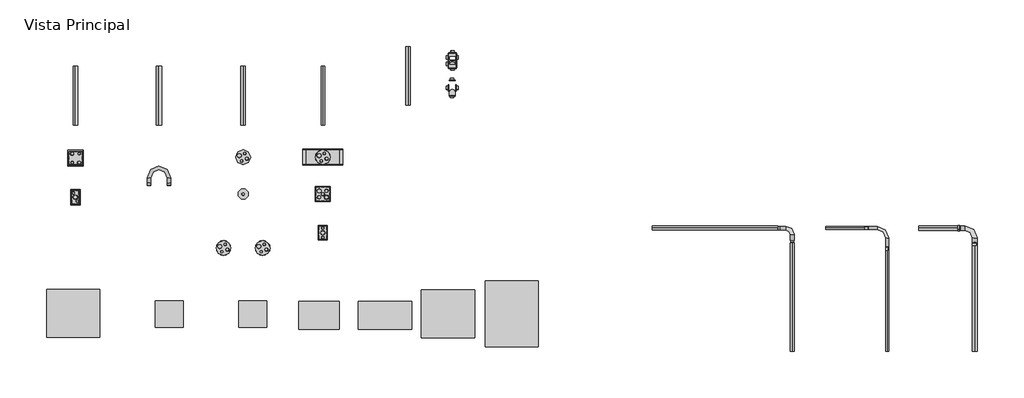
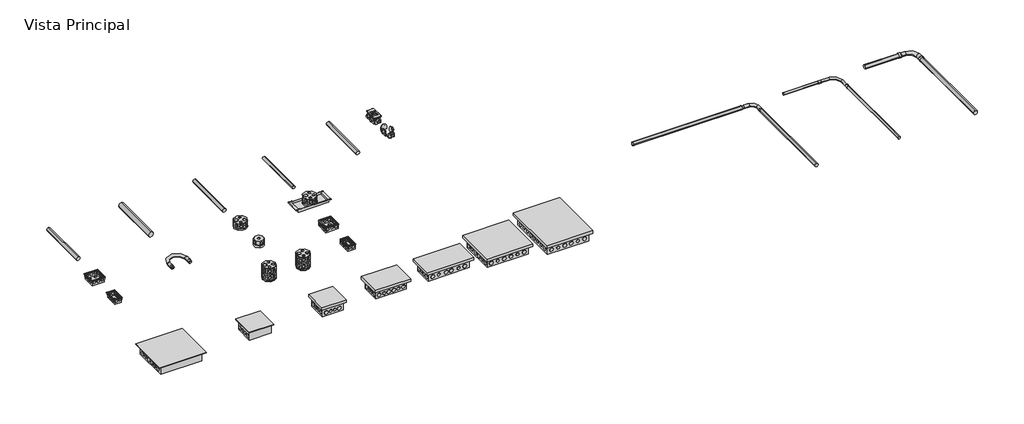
# One storey, incomplete: 31 pipe fittings, 11 cable carrier segments, 3 cable carrier fittings.
"""IFC4 building model written with IfcOpenShell, lengths in millimetres."""

from ifc_helpers import new_model, si_unit, point, frame, frame_2d, origin, place, context, project, spatial, circle_curve, trimmed, segment, composite_curve, outline, extrude, transform, mapped, element, save
from components import var_79ad25eb, var_770de3e1, var_78230c35, leve_d32ba077, pipe_fitting_fdc74c3c, leve_6d39340a, leve_111e3c81, leve_2e341f38, var_cd2047e7, var_c4bef79c, var_c04d02d2, var_3d4e0ce0, var_f98750ab, var_34743248, var_ca1eaef3, var_74e7e824, var_4c39e476, var_dc263d33, var_e7d891e8, var_2f03b29f, var_b8f45ad4, var_01f370bb, var_af95b0c3

model = new_model("IFC4")

# Units and contexts
model_context = context("Model", 3, world=origin())
ifc_project = project(units=[si_unit("LENGTHUNIT", "METRE", prefix="MILLI")], contexts=[model_context])

# Site, building, storey
site = spatial("IfcSite", under=ifc_project)
building = spatial("IfcBuilding", under=site)
storey = spatial("IfcBuildingStorey", under=building, Name="Vista Principal", Elevation=0.0)

# Cable carrier fittings
placement = place(None, origin())
var_shape = var_79ad25eb(model_context)
element("IfcCableCarrierFitting", 1, ObjectType="AmancoWavin_ConexõesdoConduite_LinhaEletricaElectroAmancoCurva : Var.", at=placement, inside=storey, context=model_context, shape_type="MappedRepresentation", body=[
    mapped(var_shape, transform((5169.1631432, -470.608474, 0.0), x_axis=(1.0, 0.0, 0.0), y_axis=(0.0, 1.0, 0.0), z_axis=(0.0, 0.0, 1.0))),
])
var_2_shape = var_770de3e1(model_context)
element("IfcCableCarrierFitting", 2, ObjectType="AmancoWavin_ConexõesdoConduite_LinhaEletricaSoldavelCurva : Var.", at=placement, inside=storey, context=model_context, shape_type="MappedRepresentation", body=[
    mapped(var_2_shape, transform((4543.2494984, -470.608474, 0.0), x_axis=(1.0, 0.0, 0.0), y_axis=(0.0, 1.0, 0.0), z_axis=(0.0, 0.0, 1.0))),
])
var_3_shape = var_78230c35(model_context)
element("IfcCableCarrierFitting", 3, ObjectType="AmancoWavin_ConexõesdoConduite_LinhaEletricaRoscavelCurva : Var.", at=placement, inside=storey, context=model_context, shape_type="MappedRepresentation", body=[
    mapped(var_3_shape, transform((3864.4978624, -470.608474, 0.0), x_axis=(1.0, 0.0, 0.0), y_axis=(0.0, 1.0, 0.0), z_axis=(0.0, 0.0, 1.0))),
])

# Cable carrier segments
element("IfcCableCarrierSegment", 4, ObjectType="Eletroduto Corrugado Serie Leve", at=placement, inside=storey, context=model_context, shape_type="SweptSolid", body=[
    extrude(outline(composite_curve([segment(trimmed(circle_curve(frame_2d((0.0, -60.3170525)), 16.0), [point((0.0, -76.3170525))], [point((-16.0, -60.3170525))], False, "CARTESIAN"), True, "CONTINUOUS"), segment(trimmed(circle_curve(frame_2d((0.0, -60.3170525)), 16.0), [point((-16.0, -60.3170525))], [point((0.0, -44.3170525))], False, "CARTESIAN"), True, "CONTINUOUS"), segment(trimmed(circle_curve(frame_2d((0.0, -60.3170525)), 16.0), [point((0.0, -44.3170525))], [point((16.0, -60.3170525))], False, "CARTESIAN"), True, "CONTINUOUS"), segment(trimmed(circle_curve(frame_2d((0.0, -60.3170525)), 16.0), [point((16.0, -60.3170525))], [point((0.0, -76.3170525))], False, "CARTESIAN"), True, "CONTINUOUS")], self_intersect=False)), frame((0.0, 266.4085904, 0.0), z_axis=(0.0, 1.0, 0.0), x_axis=(0.0, 0.0, 1.0)), (0.0, 0.0, 1.0), 420.0),
])
element("IfcCableCarrierSegment", 5, ObjectType="Eletroduto Corrugado Serie Reforçada", at=placement, inside=storey, context=model_context, shape_type="SweptSolid", body=[
    extrude(outline(composite_curve([segment(trimmed(circle_curve(frame_2d((0.0, 509.4743854)), 12.5), [point((0.0, 496.9743854))], [point((-12.5, 509.4743854))], False, "CARTESIAN"), True, "CONTINUOUS"), segment(trimmed(circle_curve(frame_2d((0.0, 509.4743854)), 12.5), [point((-12.5, 509.4743854))], [point((0.0, 521.9743854))], False, "CARTESIAN"), True, "CONTINUOUS"), segment(trimmed(circle_curve(frame_2d((0.0, 509.4743854)), 12.5), [point((0.0, 521.9743854))], [point((12.5, 509.4743854))], False, "CARTESIAN"), True, "CONTINUOUS"), segment(trimmed(circle_curve(frame_2d((0.0, 509.4743854)), 12.5), [point((12.5, 509.4743854))], [point((0.0, 496.9743854))], False, "CARTESIAN"), True, "CONTINUOUS")], self_intersect=False)), frame((0.0, 266.4085904, 0.0), z_axis=(0.0, 1.0, 0.0), x_axis=(0.0, 0.0, 1.0)), (0.0, 0.0, 1.0), 420.0),
])
element("IfcCableCarrierSegment", 6, ObjectType="Eletroduto Roscavel", at=placement, inside=storey, context=model_context, shape_type="SweptSolid", body=[
    extrude(outline(composite_curve([segment(trimmed(circle_curve(frame_2d((0.0, -661.5797353)), 21.1), [point((0.0, -682.6797353))], [point((-21.1, -661.5797353))], False, "CARTESIAN"), True, "CONTINUOUS"), segment(trimmed(circle_curve(frame_2d((0.0, -661.5797353)), 21.1), [point((-21.1, -661.5797353))], [point((0.0, -640.4797353))], False, "CARTESIAN"), True, "CONTINUOUS"), segment(trimmed(circle_curve(frame_2d((0.0, -661.5797353)), 21.1), [point((0.0, -640.4797353))], [point((21.1, -661.5797353))], False, "CARTESIAN"), True, "CONTINUOUS"), segment(trimmed(circle_curve(frame_2d((0.0, -661.5797353)), 21.1), [point((21.1, -661.5797353))], [point((0.0, -682.6797353))], False, "CARTESIAN"), True, "CONTINUOUS")], self_intersect=False)), frame((0.0, 266.4085904, 0.0), z_axis=(0.0, 1.0, 0.0), x_axis=(0.0, 0.0, 1.0)), (0.0, 0.0, 1.0), 420.0),
])
element("IfcCableCarrierSegment", 7, ObjectType="Eletroduto Soldável", at=placement, inside=storey, context=model_context, shape_type="SweptSolid", body=[
    extrude(outline(composite_curve([segment(trimmed(circle_curve(frame_2d((0.0, -1258.8075581)), 16.0), [point((0.0, -1274.8075581))], [point((-16.0, -1258.8075581))], False, "CARTESIAN"), True, "CONTINUOUS"), segment(trimmed(circle_curve(frame_2d((0.0, -1258.8075581)), 16.0), [point((-16.0, -1258.8075581))], [point((0.0, -1242.8075581))], False, "CARTESIAN"), True, "CONTINUOUS"), segment(trimmed(circle_curve(frame_2d((0.0, -1258.8075581)), 16.0), [point((0.0, -1242.8075581))], [point((16.0, -1258.8075581))], False, "CARTESIAN"), True, "CONTINUOUS"), segment(trimmed(circle_curve(frame_2d((0.0, -1258.8075581)), 16.0), [point((16.0, -1258.8075581))], [point((0.0, -1274.8075581))], False, "CARTESIAN"), True, "CONTINUOUS")], self_intersect=False)), frame((0.0, 266.4085904, 0.0), z_axis=(0.0, 1.0, 0.0), x_axis=(0.0, 0.0, 1.0)), (0.0, 0.0, 1.0), 420.0),
])
element("IfcCableCarrierSegment", 8, ObjectType="Eletroduto ElectroAmanco", at=placement, inside=storey, context=model_context, shape_type="SweptSolid", body=[
    extrude(outline(composite_curve([segment(trimmed(circle_curve(frame_2d((0.0, 1118.3829149)), 16.45), [point((0.0, 1101.9329149))], [point((-16.45, 1118.3829149))], False, "CARTESIAN"), True, "CONTINUOUS"), segment(trimmed(circle_curve(frame_2d((0.0, 1118.3829149)), 16.45), [point((-16.45, 1118.3829149))], [point((0.0, 1134.8329149))], False, "CARTESIAN"), True, "CONTINUOUS"), segment(trimmed(circle_curve(frame_2d((0.0, 1118.3829149)), 16.45), [point((0.0, 1134.8329149))], [point((16.45, 1118.3829149))], False, "CARTESIAN"), True, "CONTINUOUS"), segment(trimmed(circle_curve(frame_2d((0.0, 1118.3829149)), 16.45), [point((16.45, 1118.3829149))], [point((0.0, 1101.9329149))], False, "CARTESIAN"), True, "CONTINUOUS")], self_intersect=False)), frame((0.0, 408.9635969, 0.0), z_axis=(0.0, 1.0, 0.0), x_axis=(0.0, 0.0, 1.0)), (0.0, 0.0, 1.0), 420.0),
])
element("IfcCableCarrierSegment", 9, ObjectType="Eletroduto Roscavel", at=placement, inside=storey, context=model_context, shape_type="SweptSolid", body=[
    extrude(outline(composite_curve([segment(trimmed(circle_curve(frame_2d((-470.608474, 0.0)), 13.8), [point((-484.408474, 0.0))], [point((-470.608474, 13.8))], False, "CARTESIAN"), True, "CONTINUOUS"), segment(trimmed(circle_curve(frame_2d((-470.608474, 0.0)), 13.8), [point((-470.608474, 13.8))], [point((-456.808474, 0.0))], False, "CARTESIAN"), True, "CONTINUOUS"), segment(trimmed(circle_curve(frame_2d((-470.608474, 0.0)), 13.8), [point((-456.808474, 0.0))], [point((-470.608474, -13.8))], False, "CARTESIAN"), True, "CONTINUOUS"), segment(trimmed(circle_curve(frame_2d((-470.608474, 0.0)), 13.8), [point((-470.608474, -13.8))], [point((-484.408474, 0.0))], False, "CARTESIAN"), True, "CONTINUOUS")], self_intersect=False)), frame((2864.4978624, 0.0, 0.0), z_axis=(1.0, 0.0, 0.0), x_axis=(0.0, 1.0, 0.0)), (0.0, 0.0, 1.0), 895.0),
])
element("IfcCableCarrierSegment", 10, ObjectType="Eletroduto Roscavel", at=placement, inside=storey, context=model_context, shape_type="SweptSolid", body=[
    extrude(outline(composite_curve([segment(trimmed(circle_curve(frame_2d((0.0, 3864.4978624)), 13.8), [point((0.0, 3850.6978624))], [point((-13.8, 3864.4978624))], False, "CARTESIAN"), True, "CONTINUOUS"), segment(trimmed(circle_curve(frame_2d((0.0, 3864.4978624)), 13.8), [point((-13.8, 3864.4978624))], [point((0.0, 3878.2978624))], False, "CARTESIAN"), True, "CONTINUOUS"), segment(trimmed(circle_curve(frame_2d((0.0, 3864.4978624)), 13.8), [point((0.0, 3878.2978624))], [point((13.8, 3864.4978624))], False, "CARTESIAN"), True, "CONTINUOUS"), segment(trimmed(circle_curve(frame_2d((0.0, 3864.4978624)), 13.8), [point((13.8, 3864.4978624))], [point((0.0, 3850.6978624))], False, "CARTESIAN"), True, "CONTINUOUS")], self_intersect=False)), frame((0.0, -1352.6308624, 0.0), z_axis=(0.0, 1.0, 0.0), x_axis=(0.0, 0.0, 1.0)), (0.0, 0.0, 1.0), 777.0223885),
])
element("IfcCableCarrierSegment", 11, ObjectType="Eletroduto Soldável", at=placement, inside=storey, context=model_context, shape_type="SweptSolid", body=[
    extrude(outline(composite_curve([segment(trimmed(circle_curve(frame_2d((-470.608474, 0.0)), 10.0), [point((-480.608474, 0.0))], [point((-470.608474, 10.0))], False, "CARTESIAN"), True, "CONTINUOUS"), segment(trimmed(circle_curve(frame_2d((-470.608474, 0.0)), 10.0), [point((-470.608474, 10.0))], [point((-460.608474, 0.0))], False, "CARTESIAN"), True, "CONTINUOUS"), segment(trimmed(circle_curve(frame_2d((-470.608474, 0.0)), 10.0), [point((-460.608474, 0.0))], [point((-470.608474, -10.0))], False, "CARTESIAN"), True, "CONTINUOUS"), segment(trimmed(circle_curve(frame_2d((-470.608474, 0.0)), 10.0), [point((-470.608474, -10.0))], [point((-480.608474, 0.0))], False, "CARTESIAN"), True, "CONTINUOUS")], self_intersect=False)), frame((4103.2494984, 0.0, 0.0), z_axis=(1.0, 0.0, 0.0), x_axis=(0.0, 1.0, 0.0)), (0.0, 0.0, 1.0), 305.0),
])
element("IfcCableCarrierSegment", 12, ObjectType="Eletroduto Soldável", at=placement, inside=storey, context=model_context, shape_type="SweptSolid", body=[
    extrude(outline(composite_curve([segment(trimmed(circle_curve(frame_2d((0.0, 4543.2494984)), 10.0), [point((0.0, 4533.2494984))], [point((-10.0, 4543.2494984))], False, "CARTESIAN"), True, "CONTINUOUS"), segment(trimmed(circle_curve(frame_2d((0.0, 4543.2494984)), 10.0), [point((-10.0, 4543.2494984))], [point((0.0, 4553.2494984))], False, "CARTESIAN"), True, "CONTINUOUS"), segment(trimmed(circle_curve(frame_2d((0.0, 4543.2494984)), 10.0), [point((0.0, 4553.2494984))], [point((10.0, 4543.2494984))], False, "CARTESIAN"), True, "CONTINUOUS"), segment(trimmed(circle_curve(frame_2d((0.0, 4543.2494984)), 10.0), [point((10.0, 4543.2494984))], [point((0.0, 4533.2494984))], False, "CARTESIAN"), True, "CONTINUOUS")], self_intersect=False)), frame((0.0, -1352.6308624, 0.0), z_axis=(0.0, 1.0, 0.0), x_axis=(0.0, 0.0, 1.0)), (0.0, 0.0, 1.0), 747.0223885),
])
element("IfcCableCarrierSegment", 13, ObjectType="Eletroduto ElectroAmanco", at=placement, inside=storey, context=model_context, shape_type="SweptSolid", body=[
    extrude(outline(composite_curve([segment(trimmed(circle_curve(frame_2d((-470.608474, 0.0)), 16.45), [point((-487.058474, 0.0))], [point((-470.608474, 16.45))], False, "CARTESIAN"), True, "CONTINUOUS"), segment(trimmed(circle_curve(frame_2d((-470.608474, 0.0)), 16.45), [point((-470.608474, 16.45))], [point((-454.158474, 0.0))], False, "CARTESIAN"), True, "CONTINUOUS"), segment(trimmed(circle_curve(frame_2d((-470.608474, 0.0)), 16.45), [point((-454.158474, 0.0))], [point((-470.608474, -16.45))], False, "CARTESIAN"), True, "CONTINUOUS"), segment(trimmed(circle_curve(frame_2d((-470.608474, 0.0)), 16.45), [point((-470.608474, -16.45))], [point((-487.058474, 0.0))], False, "CARTESIAN"), True, "CONTINUOUS")], self_intersect=False)), frame((4769.1631432, 0.0, 0.0), z_axis=(1.0, 0.0, 0.0), x_axis=(0.0, 1.0, 0.0)), (0.0, 0.0, 1.0), 294.0),
])
element("IfcCableCarrierSegment", 14, ObjectType="Eletroduto ElectroAmanco", at=placement, inside=storey, context=model_context, shape_type="SweptSolid", body=[
    extrude(outline(composite_curve([segment(trimmed(circle_curve(frame_2d((0.0, 5169.1631432)), 16.45), [point((0.0, 5152.7131432))], [point((-16.45, 5169.1631432))], False, "CARTESIAN"), True, "CONTINUOUS"), segment(trimmed(circle_curve(frame_2d((0.0, 5169.1631432)), 16.45), [point((-16.45, 5169.1631432))], [point((0.0, 5185.6131432))], False, "CARTESIAN"), True, "CONTINUOUS"), segment(trimmed(circle_curve(frame_2d((0.0, 5169.1631432)), 16.45), [point((0.0, 5185.6131432))], [point((16.45, 5169.1631432))], False, "CARTESIAN"), True, "CONTINUOUS"), segment(trimmed(circle_curve(frame_2d((0.0, 5169.1631432)), 16.45), [point((16.45, 5169.1631432))], [point((0.0, 5152.7131432))], False, "CARTESIAN"), True, "CONTINUOUS")], self_intersect=False)), frame((0.0, -1352.6308624, 0.0), z_axis=(0.0, 1.0, 0.0), x_axis=(0.0, 0.0, 1.0)), (0.0, 0.0, 1.0), 776.0223885),
])

# Pipe fittings
leve_shape = leve_d32ba077(model_context)
element("IfcPipeFitting", 15, ObjectType="AmancoWavin_ConexõesdoConduite_CorrugadoCaixaOctogonalcomProlongamentoReforçada : Reforçada", at=placement, inside=storey, context=model_context, shape_type="MappedRepresentation", body=[
    mapped(leve_shape, transform((79.3674496, -612.875081, 0.0), x_axis=(1.0, 0.0, 0.0), y_axis=(0.0, 1.0, 0.0), z_axis=(0.0, 0.0, 1.0))),
])
pipe_fitting_shape = pipe_fitting_fdc74c3c(model_context)
element("IfcPipeFitting", 16, ObjectType="AmancoWavin_ConexõesdoConduite_LinhaEletricaCorrugadoCaixaOctogonalcomSuporte4x4 : Reforçada 250mm", at=placement, inside=storey, context=model_context, shape_type="MappedRepresentation", body=[
    mapped(pipe_fitting_shape, transform((509.4743854, 37.0653638, 0.0), x_axis=(1.0, 0.0, 0.0), y_axis=(0.0, 1.0, 0.0), z_axis=(0.0, 0.0, 1.0))),
])
leve_2_shape = leve_6d39340a(model_context)
element("IfcPipeFitting", 17, ObjectType="AmancoWavin_ConexõesdoConduite_CorrugadoZNãoUsarProlongamento : Reforçada", at=placement, inside=storey, context=model_context, shape_type="MappedRepresentation", body=[
    mapped(leve_2_shape, transform((79.3674496, -612.875081, 0.0), x_axis=(1.0, 0.0, 0.0), y_axis=(0.0, 1.0, 0.0), z_axis=(0.0, 0.0, 1.0))),
])
leve_3_shape = leve_111e3c81(model_context)
element("IfcPipeFitting", 18, ObjectType="AmancoWavin_ConexõesdoConduite_LinhaEletricaCorrugadoCaixaOctogonal3x3 : Leve", at=placement, inside=storey, context=model_context, shape_type="MappedRepresentation", body=[
    mapped(leve_3_shape, transform((-60.3170525, -227.2892468, 0.0), x_axis=(1.0, 0.0, 0.0), y_axis=(0.0, 1.0, 0.0), z_axis=(0.0, 0.0, 1.0))),
])
leve_4_shape = leve_2e341f38(model_context)
element("IfcPipeFitting", 19, ObjectType="AmancoWavin_ConexõesdoConduite_LinhaEletricaCorrugadoCaixaOctogonal4x4 : Leve", at=placement, inside=storey, context=model_context, shape_type="MappedRepresentation", body=[
    mapped(leve_4_shape, transform((-60.3170525, 37.0653638, 0.0), x_axis=(1.0, 0.0, 0.0), y_axis=(0.0, 1.0, 0.0), z_axis=(0.0, 0.0, 1.0))),
])
element("IfcPipeFitting", 20, ObjectType="AmancoWavin_ConexõesdoConduite_CorrugadoZNãoUsarProlongamento : Leve", at=placement, inside=storey, context=model_context, shape_type="MappedRepresentation", body=[
    mapped(leve_2_shape, transform((-200.3170525, -612.875081, 0.0), x_axis=(1.0, 0.0, 0.0), y_axis=(0.0, 1.0, 0.0), z_axis=(0.0, 0.0, 1.0))),
])
element("IfcPipeFitting", 21, ObjectType="AmancoWavin_ConexõesdoConduite_CorrugadoCaixaOctogonalcomProlongamentoLeve : Leve", at=placement, inside=storey, context=model_context, shape_type="MappedRepresentation", body=[
    mapped(leve_shape, transform((-200.3170525, -612.875081, 0.0), x_axis=(1.0, 0.0, 0.0), y_axis=(0.0, 1.0, 0.0), z_axis=(0.0, 0.0, 1.0))),
])
var_4_shape = var_cd2047e7(model_context)
element("IfcPipeFitting", 22, ObjectType="AmancoWavin_ConexõesdoConduite_LinhaEletricaRoscavelCurva180 : Var.", at=placement, inside=storey, context=model_context, shape_type="MappedRepresentation", body=[
    mapped(var_4_shape, transform((-661.5797353, -167.7915146, 0.0), x_axis=(1.0, 0.0, 0.0), y_axis=(0.0, 1.0, 0.0), z_axis=(0.0, 0.0, 1.0))),
])
var_5_shape = var_c4bef79c(model_context)
element("IfcPipeFitting", 23, ObjectType="AmancoWavin_ConexõesdoConduite_LinhaEletricaSoldRoscCaixa4x4 : var.", at=placement, inside=storey, context=model_context, shape_type="MappedRepresentation", body=[
    mapped(var_5_shape, transform((-1258.8075581, 29.947563, 0.0), x_axis=(1.0, 0.0, 0.0), y_axis=(0.0, 0.0, -1.0), z_axis=(0.0, 1.0, 0.0))),
])
var_6_shape = var_c04d02d2(model_context)
element("IfcPipeFitting", 24, ObjectType="AmancoWavin_ConexõesdoConduite_LinhaEletricaeZNãoUsarElectroAmancoAdaptador : var.", at=placement, inside=storey, context=model_context, shape_type="MappedRepresentation", body=[
    mapped(var_6_shape, transform((1435.5214263, 697.7666349, -14.65), x_axis=(-1.0, 0.0, 0.0), y_axis=(0.0, 1.0, 0.0), z_axis=(0.0, 0.0, -1.0))),
])
element("IfcPipeFitting", 25, ObjectType="AmancoWavin_ConexõesdoConduite_LinhaEletricaeZNãoUsarElectroAmancoAdaptador : var.", at=placement, inside=storey, context=model_context, shape_type="MappedRepresentation", body=[
    mapped(var_6_shape, transform((1435.5214263, 781.9166349, 8.5), x_axis=(-1.0, 0.0, 0.0), y_axis=(0.0, 0.0, 1.0), z_axis=(0.0, 1.0, 0.0))),
])
element("IfcPipeFitting", 26, ObjectType="AmancoWavin_ConexõesdoConduite_LinhaEletricaeZNãoUsarElectroAmancoAdaptador : var.", at=placement, inside=storey, context=model_context, shape_type="MappedRepresentation", body=[
    mapped(var_6_shape, transform((1409.3714263, 752.2666349, 8.5), x_axis=(0.0, -1.0, 0.0), y_axis=(0.0, 0.0, 1.0), z_axis=(-1.0, 0.0, 0.0))),
])
element("IfcPipeFitting", 27, ObjectType="AmancoWavin_ConexõesdoConduite_LinhaEletricaeZNãoUsarElectroAmancoAdaptador : var.", at=placement, inside=storey, context=model_context, shape_type="MappedRepresentation", body=[
    mapped(var_6_shape, transform((1409.3714263, 704.2666349, 8.5), x_axis=(0.0, -1.0, 0.0), y_axis=(0.0, 0.0, 1.0), z_axis=(-1.0, 0.0, 0.0))),
])
element("IfcPipeFitting", 28, ObjectType="AmancoWavin_ConexõesdoConduite_LinhaEletricaeZNãoUsarElectroAmancoAdaptador : var.", at=placement, inside=storey, context=model_context, shape_type="MappedRepresentation", body=[
    mapped(var_6_shape, transform((1461.6714263, 752.2666349, 8.5), x_axis=(0.0, 1.0, 0.0), y_axis=(0.0, 0.0, 1.0), z_axis=(1.0, 0.0, 0.0))),
])
element("IfcPipeFitting", 29, ObjectType="AmancoWavin_ConexõesdoConduite_LinhaEletricaeZNãoUsarElectroAmancoAdaptador : var.", at=placement, inside=storey, context=model_context, shape_type="MappedRepresentation", body=[
    mapped(var_6_shape, transform((1434.3722986, 501.7036238, -14.65), x_axis=(-1.0, 0.0, 0.0), y_axis=(0.0, 1.0, 0.0), z_axis=(0.0, 0.0, -1.0))),
])
element("IfcPipeFitting", 30, ObjectType="AmancoWavin_ConexõesdoConduite_LinhaEletricaeZNãoUsarElectroAmancoAdaptador : var.", at=placement, inside=storey, context=model_context, shape_type="MappedRepresentation", body=[
    mapped(var_6_shape, transform((1460.5222986, 532.2036238, 8.5), x_axis=(0.0, 1.0, 0.0), y_axis=(0.0, 0.0, 1.0), z_axis=(1.0, 0.0, 0.0))),
])
element("IfcPipeFitting", 31, ObjectType="AmancoWavin_ConexõesdoConduite_LinhaEletricaeZNãoUsarElectroAmancoAdaptador : var.", at=placement, inside=storey, context=model_context, shape_type="MappedRepresentation", body=[
    mapped(var_6_shape, transform((1434.3722986, 585.8536238, 8.5), x_axis=(-1.0, 0.0, 0.0), y_axis=(0.0, 0.0, 1.0), z_axis=(0.0, 1.0, 0.0))),
])
var_7_shape = var_3d4e0ce0(model_context)
element("IfcPipeFitting", 32, ObjectType="AmancoWavin_ConexõesdoConduite_LinhaEletricaeZNãoUsarElectroAmancoTampa2TSeparadas : var.", at=placement, inside=storey, context=model_context, shape_type="MappedRepresentation", body=[
    mapped(var_7_shape, transform((1435.5214263, 728.2666349, 31.5), x_axis=(-1.0, 0.0, 0.0), y_axis=(0.0, -1.0, 0.0), z_axis=(0.0, 0.0, 1.0))),
])
var_8_shape = var_f98750ab(model_context)
element("IfcPipeFitting", 33, ObjectType="AmancoWavin_ConexõesdoConduite_LinhaEletricaCorrugadoCaixa4x2 : var.", at=placement, inside=storey, context=model_context, shape_type="MappedRepresentation", body=[
    mapped(var_8_shape, transform((509.4743854, -504.108474, 0.0), x_axis=(1.0, 0.0, 0.0), y_axis=(0.0, 0.0, -1.0), z_axis=(0.0, 1.0, 0.0))),
])
var_9_shape = var_34743248(model_context)
element("IfcPipeFitting", 34, ObjectType="AmancoWavin_ConexõesdoConduite_LinhaEletricaCorrugadoCaixa4x4 : var.", at=placement, inside=storey, context=model_context, shape_type="MappedRepresentation", body=[
    mapped(var_9_shape, transform((509.4743854, -227.2892468, 0.0), x_axis=(1.0, 0.0, 0.0), y_axis=(0.0, 0.0, -1.0), z_axis=(0.0, 1.0, 0.0))),
])
var_10_shape = var_ca1eaef3(model_context)
element("IfcPipeFitting", 35, ObjectType="AmancoWavin_ConexõesdoConduite_LinhaEletricaSoldRoscCaixa4x2 : var.", at=placement, inside=storey, context=model_context, shape_type="MappedRepresentation", body=[
    mapped(var_10_shape, transform((-1258.8075581, -249.5583029, 0.0), x_axis=(1.0, 0.0, 0.0), y_axis=(0.0, 0.0, -1.0), z_axis=(0.0, 1.0, 0.0))),
])
var_11_shape = var_74e7e824(model_context)
element("IfcPipeFitting", 36, ObjectType="AmancoWavin_ConexõesdoConduite_LinhaEletricaCorrugadoCaixadePassagemdeParedeGrande : var.", at=placement, inside=storey, context=model_context, shape_type="MappedRepresentation", body=[
    mapped(var_11_shape, transform((-1274.8075581, -1081.0241855, 45.8424128), x_axis=(1.0, 0.0, 0.0), y_axis=(0.0, 0.0, -1.0), z_axis=(0.0, 1.0, 0.0))),
])
var_12_shape = var_4c39e476(model_context)
element("IfcPipeFitting", 37, ObjectType="AmancoWavin_ConexõesdoConduite_LinhaEletricaCorrugadoCaixadePassagemdeParedePequena : var.", at=placement, inside=storey, context=model_context, shape_type="MappedRepresentation", body=[
    mapped(var_12_shape, transform((-588.7980332, -1085.8655907, 37.2120642), x_axis=(1.0, 0.0, 0.0), y_axis=(0.0, 0.0, -1.0), z_axis=(0.0, 1.0, 0.0))),
])
var_13_shape = var_dc263d33(model_context)
element("IfcPipeFitting", 38, ObjectType="AmancoWavin_ConexõesdoConduite_LinhaEletricaCorrugadoCuadroDistribucao4D : var.", at=placement, inside=storey, context=model_context, shape_type="MappedRepresentation", body=[
    mapped(var_13_shape, transform((7.0170118, -1085.7672354, 41.5272385), x_axis=(1.0, 0.0, 0.0), y_axis=(0.0, 0.0, -1.0), z_axis=(0.0, 1.0, 0.0))),
])
var_14_shape = var_e7d891e8(model_context)
element("IfcPipeFitting", 39, ObjectType="AmancoWavin_ConexõesdoConduite_LinhaEletricaCorrugadoCuadroDistribucao8D : var.", at=placement, inside=storey, context=model_context, shape_type="MappedRepresentation", body=[
    mapped(var_14_shape, transform((481.1165211, -1095.4667175, 50.1575872), x_axis=(1.0, 0.0, 0.0), y_axis=(0.0, 0.0, -1.0), z_axis=(0.0, 1.0, 0.0))),
])
var_15_shape = var_2f03b29f(model_context)
element("IfcPipeFitting", 40, ObjectType="AmancoWavin_ConexõesdoConduite_LinhaEletricaCorrugadoCuadroDistribucao12D : var.", at=placement, inside=storey, context=model_context, shape_type="MappedRepresentation", body=[
    mapped(var_15_shape, transform((953.1193556, -1094.6088532, 54.4727615), x_axis=(1.0, 0.0, 0.0), y_axis=(0.0, 0.0, -1.0), z_axis=(0.0, 1.0, 0.0))),
])
var_16_shape = var_b8f45ad4(model_context)
element("IfcPipeFitting", 41, ObjectType="AmancoWavin_ConexõesdoConduite_LinhaEletricaCorrugadoCuadroDistribucao24D : var.", at=placement, inside=storey, context=model_context, shape_type="MappedRepresentation", body=[
    mapped(var_16_shape, transform((1404.3372526, -1085.7045399, 50.1575872), x_axis=(1.0, 0.0, 0.0), y_axis=(0.0, 0.0, -1.0), z_axis=(0.0, 1.0, 0.0))),
])
var_17_shape = var_01f370bb(model_context)
element("IfcPipeFitting", 42, ObjectType="AmancoWavin_ConexõesdoConduite_LinhaEletricaCorrugadoCuadroDistribucao36D : var.", at=placement, inside=storey, context=model_context, shape_type="MappedRepresentation", body=[
    mapped(var_17_shape, transform((1860.1140107, -1083.4850634, 45.8424128), x_axis=(1.0, 0.0, 0.0), y_axis=(0.0, 0.0, -1.0), z_axis=(0.0, 1.0, 0.0))),
])
var_18_shape = var_af95b0c3(model_context)
element("IfcPipeFitting", 43, ObjectType="AmancoWavin_ConexõesdoConduite_LinhaEletricaeZNãoUsarElectroAmancoAdaptador : var.", at=placement, inside=storey, context=model_context, shape_type="MappedRepresentation", body=[
    mapped(var_18_shape, transform((1435.5214263, 674.6166349, 8.5), x_axis=(-1.0, 0.0, 0.0), y_axis=(0.0, 0.0, -1.0), z_axis=(0.0, -1.0, 0.0))),
])
element("IfcPipeFitting", 44, ObjectType="AmancoWavin_ConexõesdoConduite_LinhaEletricaeZNãoUsarElectroAmancoAdaptador : var.", at=placement, inside=storey, context=model_context, shape_type="MappedRepresentation", body=[
    mapped(var_18_shape, transform((1408.2222986, 532.2036238, 8.5), x_axis=(0.0, 1.0, 0.0), y_axis=(0.0, 0.0, -1.0), z_axis=(-1.0, 0.0, 0.0))),
])
element("IfcPipeFitting", 45, ObjectType="AmancoWavin_ConexõesdoConduite_LinhaEletricaeZNãoUsarElectroAmancoAdaptador : var.", at=placement, inside=storey, context=model_context, shape_type="MappedRepresentation", body=[
    mapped(var_18_shape, transform((1434.3722986, 478.5536238, 8.5), x_axis=(-1.0, 0.0, 0.0), y_axis=(0.0, 0.0, -1.0), z_axis=(0.0, -1.0, 0.0))),
])

save(model, "model.ifc")
